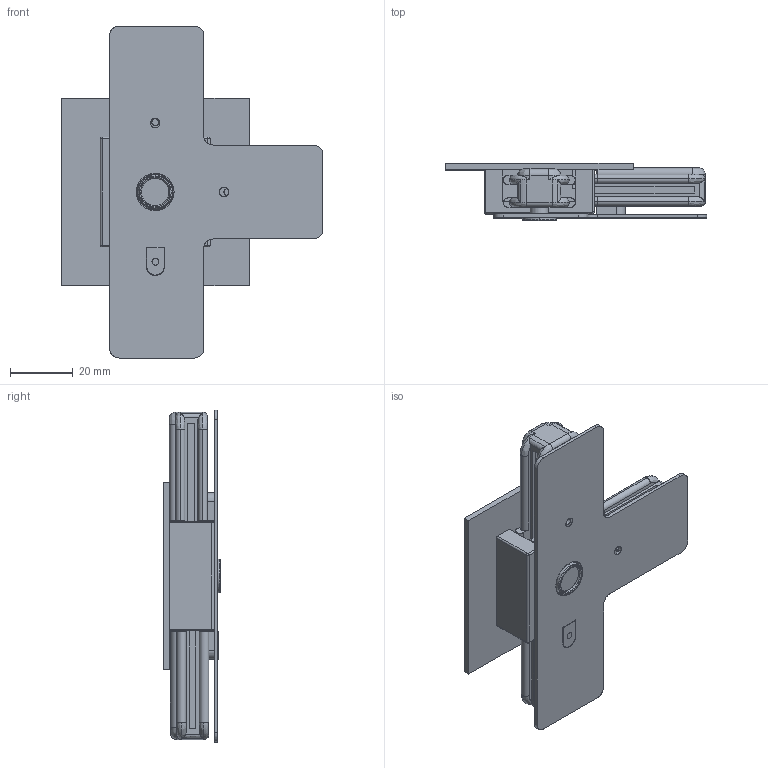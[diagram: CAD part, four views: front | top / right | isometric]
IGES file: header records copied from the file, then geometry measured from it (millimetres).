
Start section: SolidWorks IGES file using analytic representation for surfaces
Global section: file name: Z:\Modele 3D_WWW\_KOLEKCJE_WWW\PROFILE SYSTEM\PROFILE-RECESSED-T-CONNECTOR-8834-8835\PROFILE-RECESSED-T-CONNECTOR-8834-8835.IGS; native system: SolidWorks 2020; preprocessor: SolidWorks 2020; author: gabriela.tworek; date: 210217.091836; units: millimetre
Bounding box: 83.49 x 18.17 x 106 mm (x, y, z)
Surface area: 34919.9 mm2 (no closed solid volume)
Topology: 0 solids, 0 shells, 362 faces, 4109 edges, 4109 vertices
Faces by surface type: bspline 223, revolution 139
